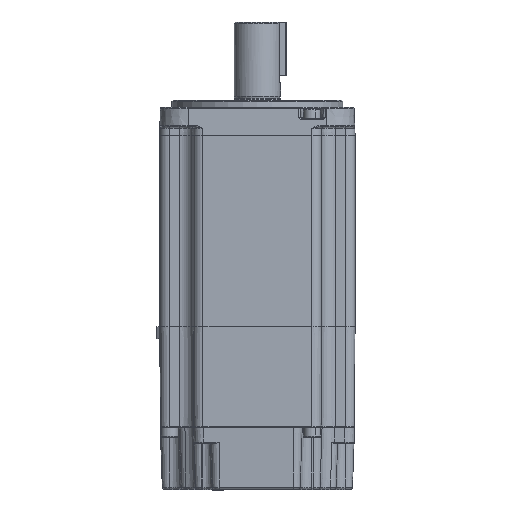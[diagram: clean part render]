
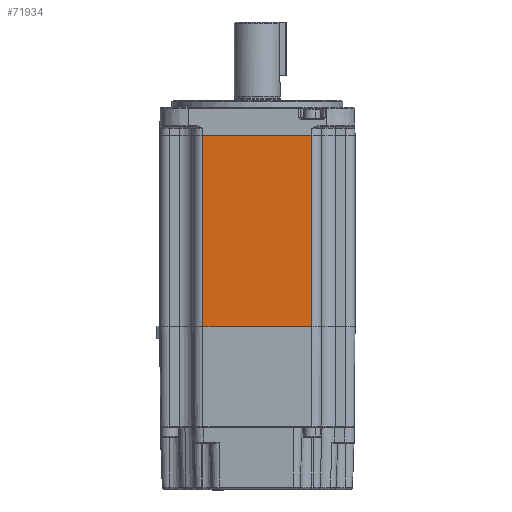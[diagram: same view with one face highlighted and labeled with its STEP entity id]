
A CAD part, front view. The second image highlights one B-rep face of the part: STEP entity #71934.
In plain terms, the highlighted planar face has unit normal (0, -1, 0).
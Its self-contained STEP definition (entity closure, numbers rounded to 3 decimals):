
#105 = VERTEX_POINT ( 'NONE', #41262 ) ;
#5232 = VERTEX_POINT ( 'NONE', #72050 ) ;
#8748 = EDGE_LOOP ( 'NONE', ( #9278, #46108, #12772, #9435 ) ) ;
#8836 = LINE ( 'NONE', #33232, #47672 ) ;
#9278 = ORIENTED_EDGE ( 'NONE', *, *, #40855, .F. ) ;
#9435 = ORIENTED_EDGE ( 'NONE', *, *, #51602, .T. ) ;
#12772 = ORIENTED_EDGE ( 'NONE', *, *, #60159, .F. ) ;
#14008 = DIRECTION ( 'NONE',  ( 1., 0., 0. ) ) ;
#14224 = LINE ( 'NONE', #41949, #73945 ) ;
#18301 = VERTEX_POINT ( 'NONE', #35810 ) ;
#20722 = VECTOR ( 'NONE', #24269, 1000. ) ;
#23510 = LINE ( 'NONE', #46718, #20722 ) ;
#24269 = DIRECTION ( 'NONE',  ( 0., 0., -1. ) ) ;
#28804 = LINE ( 'NONE', #42787, #73166 ) ;
#31667 = PLANE ( 'NONE',  #74331 ) ;
#33232 = CARTESIAN_POINT ( 'NONE',  ( 22.3, -40., 40.2 ) ) ;
#35810 = CARTESIAN_POINT ( 'NONE',  ( 22.3, -40., 39.2 ) ) ;
#35858 = FACE_OUTER_BOUND ( 'NONE', #8748, .T. ) ;
#37464 = CARTESIAN_POINT ( 'NONE',  ( -22.3, -40., 40.2 ) ) ;
#38325 = EDGE_CURVE ( 'NONE', #18301, #50653, #8836, .T. ) ;
#40855 = EDGE_CURVE ( 'NONE', #50653, #105, #14224, .T. ) ;
#41262 = CARTESIAN_POINT ( 'NONE',  ( -22.3, -40., -39.2 ) ) ;
#41949 = CARTESIAN_POINT ( 'NONE',  ( -22.3, -40., -39.2 ) ) ;
#42787 = CARTESIAN_POINT ( 'NONE',  ( -22.3, -40., 39.2 ) ) ;
#46108 = ORIENTED_EDGE ( 'NONE', *, *, #38325, .F. ) ;
#46718 = CARTESIAN_POINT ( 'NONE',  ( -22.3, -40., 40.2 ) ) ;
#47672 = VECTOR ( 'NONE', #74233, 1000. ) ;
#48898 = DIRECTION ( 'NONE',  ( 0., 1., 0. ) ) ;
#50653 = VERTEX_POINT ( 'NONE', #66732 ) ;
#51602 = EDGE_CURVE ( 'NONE', #5232, #105, #23510, .T. ) ;
#59613 = DIRECTION ( 'NONE',  ( -1., 0., 0. ) ) ;
#60159 = EDGE_CURVE ( 'NONE', #5232, #18301, #28804, .T. ) ;
#66732 = CARTESIAN_POINT ( 'NONE',  ( 22.3, -40., -39.2 ) ) ;
#71934 = ADVANCED_FACE ( 'NONE', ( #35858 ), #31667, .F. ) ;
#72050 = CARTESIAN_POINT ( 'NONE',  ( -22.3, -40., 39.2 ) ) ;
#72413 = DIRECTION ( 'NONE',  ( -1., 0., 0. ) ) ;
#73166 = VECTOR ( 'NONE', #14008, 1000. ) ;
#73945 = VECTOR ( 'NONE', #59613, 1000. ) ;
#74233 = DIRECTION ( 'NONE',  ( 0., 0., -1. ) ) ;
#74331 = AXIS2_PLACEMENT_3D ( 'NONE', #37464, #48898, #72413 ) ;
